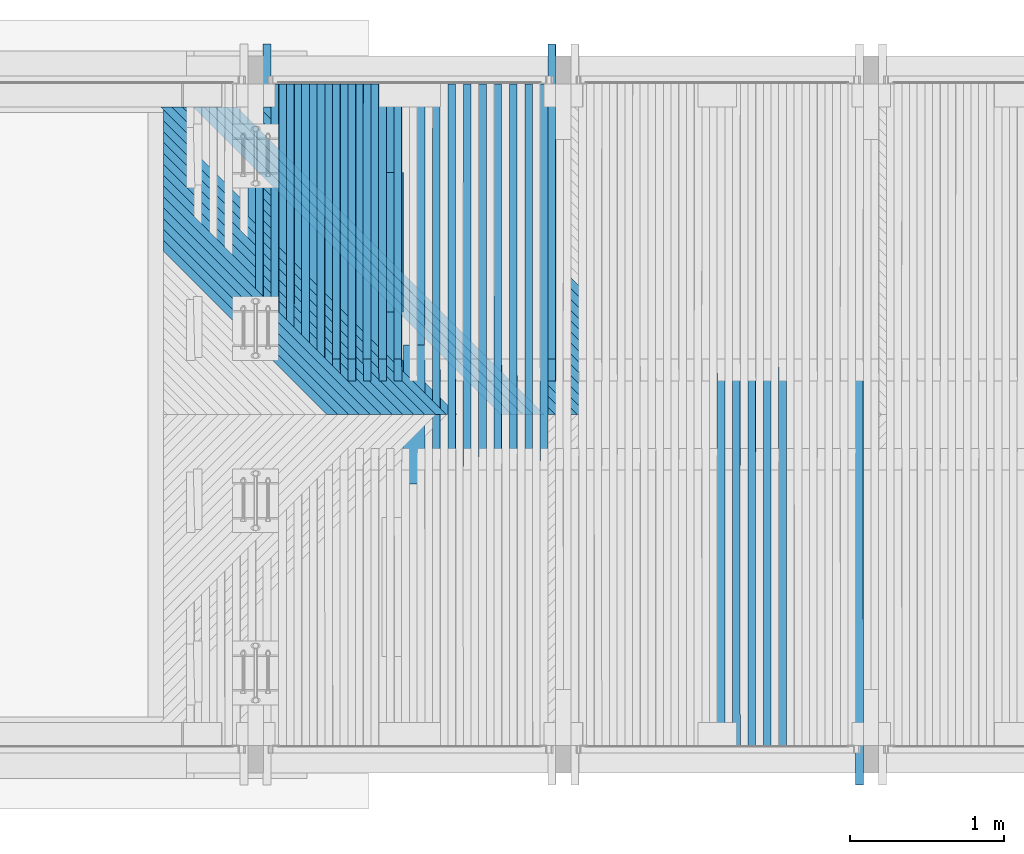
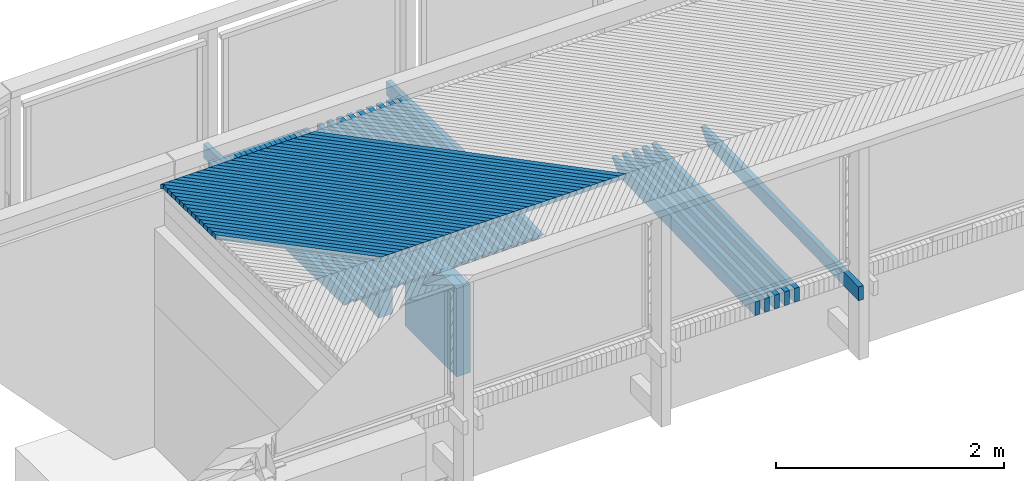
# One storey, part 19 of 65: 73 beams.
"""IFC2X3 building model written with IfcOpenShell, lengths in millimetres."""

from ifc_helpers import new_model, si_unit, frame, origin_with_axes, place, context, subcontext, project, spatial, faceted_brep, material, type_object, element, save


model = new_model("IFC2X3")

# Units and contexts
model_context = context("Model", 3, precision=1e-05, world=origin_with_axes())
body_context = subcontext(model_context, "Body", "Model", "MODEL_VIEW")
ifc_project = project(units=[si_unit("LENGTHUNIT", "METRE", prefix="MILLI"), si_unit("AREAUNIT", "SQUARE_METRE"), si_unit("VOLUMEUNIT", "CUBIC_METRE"), si_unit("MASSUNIT", "GRAM", prefix="KILO"), si_unit("TIMEUNIT", "SECOND"), si_unit("PLANEANGLEUNIT", "RADIAN"), si_unit("SOLIDANGLEUNIT", "STERADIAN"), si_unit("THERMODYNAMICTEMPERATUREUNIT", "DEGREE_CELSIUS"), si_unit("LUMINOUSINTENSITYUNIT", "LUMEN")], contexts=[model_context])

# Site, building, storey
site_placement = place(None, origin_with_axes())
site = spatial("IfcSite", under=ifc_project, at=site_placement, Name="Undefined", CompositionType="ELEMENT")
building_placement = place(site_placement, origin_with_axes())
building = spatial("IfcBuilding", under=site, at=building_placement, Name="Undefined", CompositionType="ELEMENT")
storey_placement = place(building_placement, origin_with_axes())
storey = spatial("IfcBuildingStorey", under=building, at=storey_placement, Name="Undefined", CompositionType="ELEMENT", Elevation=0.0)

# Beams
ifc_material = material(Name="TIMBER/Timber_Undefined")
beam_type_1 = type_object("IfcBeamType", Name="945*140", PredefinedType="NOTDEFINED")
for number, where, z_axis, x_axis in (
    (1, (1031.0, 22817.5, 2502.1379002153), (0.0, 0.0, 1.0), (0.0, -1.0, 0.0)),
    (2, (891.0, 23937.5, 2500.3779002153), (0.0, 0.0, 1.0), (0.0, -1.0, 0.0)),
):
    element("IfcBeam", number, at=place(storey_placement, frame(where, z_axis=z_axis, x_axis=x_axis)), inside=storey, type_object=beam_type_1, material=ifc_material, Name="PALKKI", ObjectType="945*140", context=body_context, shape_type="Brep", body=[
        faceted_brep([(0.0, 70.0, -472.5), (0.0, 70.0, 472.5), (905.0, 70.0, 472.5), (905.0, 70.0, -472.5), (0.0, -70.0, 472.5), (905.0, -70.0, 472.5), (0.0, -70.0, -472.5), (905.0, -70.0, -472.5)], [[[0, 1, 2, 3]], [[1, 4, 5, 2]], [[4, 6, 7, 5]], [[6, 0, 3, 7]], [[5, 7, 3, 2]], [[6, 4, 1, 0]]]),
    ])
beam_type_2 = type_object("IfcBeamType", Name="50*50", PredefinedType="NOTDEFINED")
beam_1_placement = place(storey_placement, frame((497.783472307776, 22365.4998996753, 3189.38189593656), z_axis=(0.707219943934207, 0.70698194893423, -0.00405891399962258), x_axis=(-0.706849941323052, 0.706948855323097, -0.024217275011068)))
element("IfcBeam", 3, at=beam_1_placement, inside=storey, type_object=beam_type_2, material=ifc_material, Name="BEAM", ObjectType="50*50", context=body_context, shape_type="Brep", body=[
    faceted_brep([(25.0011701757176, -25.0000000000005, -24.9999999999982), (-25.0011704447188, -25.0, 24.9999999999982), (-26.4154158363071, 24.9999999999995, 24.9999999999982), (23.5869248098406, 24.9999999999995, -24.9999999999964), (1577.57341753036, 25.0, 25.0), (1527.54724488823, 25.0, -25.0), (1528.55536067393, -25.0, -24.9999999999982), (1578.58153331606, -24.9999999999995, 25.0000000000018)], [[[0, 1, 2, 3]], [[3, 2, 4, 5]], [[0, 3, 5, 6]], [[1, 0, 6, 7]], [[2, 1, 7, 4]], [[6, 5, 4, 7]]]),
])
beam_2_placement = place(storey_placement, frame((568.50226725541, 22365.4998996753, 3190.25895789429), z_axis=(0.707219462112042, 0.706981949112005, -0.0041419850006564), x_axis=(-0.706852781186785, 0.706948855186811, -0.0241342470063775)))
element("IfcBeam", 4, at=beam_2_placement, inside=storey, type_object=beam_type_2, material=ifc_material, Name="BEAM", ObjectType="50*50", context=body_context, shape_type="Brep", body=[
    faceted_brep([(25.0011701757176, -25.0000000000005, -24.9999999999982), (-25.0011704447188, -25.0, 24.9999999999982), (-26.4154158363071, 24.9999999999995, 24.9999999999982), (23.5869248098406, 24.9999999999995, -24.9999999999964), (1677.61863252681, 25.0, 24.9999999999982), (1627.59269495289, 25.0, -25.0), (1628.59250041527, -25.0, -24.9999999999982), (1678.61843798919, -24.9999999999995, 25.0)], [[[0, 1, 2, 3]], [[3, 2, 4, 5]], [[0, 3, 5, 6]], [[1, 0, 6, 7]], [[2, 1, 7, 4]], [[6, 5, 4, 7]]]),
])
beam_3_placement = place(storey_placement, frame((639.221164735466, 22365.4998996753, 3191.12771316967), z_axis=(0.707218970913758, 0.706981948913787, -0.00422505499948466), x_axis=(-0.70685561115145, 0.70694885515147, -0.0240512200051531)))
element("IfcBeam", 5, at=beam_3_placement, inside=storey, type_object=beam_type_2, material=ifc_material, Name="BEAM", ObjectType="50*50", context=body_context, shape_type="Brep", body=[
    faceted_brep([(25.0011701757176, -25.0000000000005, -24.9999999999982), (-25.0011704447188, -25.0, 24.9999999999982), (-26.4154158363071, 24.9999999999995, 24.9999999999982), (23.5869248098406, 24.9999999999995, -24.9999999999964), (1777.66321320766, 24.9999999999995, 25.0), (1727.63751066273, 25.0, -24.9999999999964), (1728.62900598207, -25.0000000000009, -24.9999999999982), (1778.65470852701, -25.0, 25.0000000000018)], [[[0, 1, 2, 3]], [[3, 2, 4, 5]], [[0, 3, 5, 6]], [[1, 0, 6, 7]], [[2, 1, 7, 4]], [[6, 5, 4, 7]]]),
])
beam_4_placement = place(storey_placement, frame((709.940163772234, 22365.4998996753, 3191.98816175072), z_axis=(0.707218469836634, 0.706981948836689, -0.00430812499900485), x_axis=(-0.706858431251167, 0.7069488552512, -0.0239681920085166)))
element("IfcBeam", 6, at=beam_4_placement, inside=storey, type_object=beam_type_2, material=ifc_material, Name="BEAM", ObjectType="50*50", context=body_context, shape_type="Brep", body=[
    faceted_brep([(25.0011701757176, -25.0000000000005, -24.9999999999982), (-25.0011704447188, -25.0, 24.9999999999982), (-26.4154158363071, 24.9999999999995, 24.9999999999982), (23.5869248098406, 24.9999999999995, -24.9999999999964), (1877.70716236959, 25.0000000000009, 24.9999999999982), (1827.68169485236, 25.0000000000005, -25.0000000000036), (1828.66488005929, -24.9999999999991, -25.0000000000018), (1878.69034757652, -24.9999999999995, 24.9999999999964)], [[[0, 1, 2, 3]], [[3, 2, 4, 5]], [[0, 3, 5, 6]], [[1, 0, 6, 7]], [[2, 1, 7, 4]], [[6, 5, 4, 7]]]),
])
beam_5_placement = place(storey_placement, frame((780.659263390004, 22365.4998996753, 3192.8403036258), z_axis=(0.707217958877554, 0.706981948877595, -0.00439119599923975), x_axis=(-0.706861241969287, 0.706948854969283, -0.0238851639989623)))
element("IfcBeam", 7, at=beam_5_placement, inside=storey, type_object=beam_type_2, material=ifc_material, Name="BEAM", ObjectType="50*50", context=body_context, shape_type="Brep", body=[
    faceted_brep([(25.0011701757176, -25.0000000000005, -24.9999999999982), (-25.0011704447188, -25.0, 24.9999999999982), (-26.4154158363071, 24.9999999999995, 24.9999999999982), (23.5869248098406, 24.9999999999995, -24.9999999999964), (1977.75048147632, 25.0, 25.0), (1927.72524901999, 25.0, -25.0000000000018), (1928.70012414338, -25.0, -25.0000000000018), (1978.7253565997, -25.0, 25.0)], [[[0, 1, 2, 3]], [[3, 2, 4, 5]], [[0, 3, 5, 6]], [[1, 0, 6, 7]], [[2, 1, 7, 4]], [[6, 5, 4, 7]]]),
])
beam_6_placement = place(storey_placement, frame((851.378462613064, 22365.4998996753, 3193.68413878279), z_axis=(0.707217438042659, 0.706981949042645, -0.00447426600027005), x_axis=(-0.706864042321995, 0.706948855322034, -0.0238021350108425)))
element("IfcBeam", 8, at=beam_6_placement, inside=storey, type_object=beam_type_2, material=ifc_material, Name="BEAM", ObjectType="50*50", context=body_context, shape_type="Brep", body=[
    faceted_brep([(25.0011701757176, -25.0000000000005, -24.9999999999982), (-25.0011704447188, -25.0, 24.9999999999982), (-26.4154158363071, 24.9999999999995, 24.9999999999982), (23.5869248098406, 24.9999999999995, -24.9999999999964), (2077.79317600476, 25.0000000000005, 25.0), (2027.76817857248, 25.0, -24.9999999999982), (2028.73474369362, -25.0000000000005, -24.9999999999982), (2078.75974112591, -24.9999999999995, 25.0000000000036)], [[[0, 1, 2, 3]], [[3, 2, 4, 5]], [[0, 3, 5, 6]], [[1, 0, 6, 7]], [[2, 1, 7, 4]], [[6, 5, 4, 7]]]),
])
beam_7_placement = place(storey_placement, frame((922.097760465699, 22365.4998996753, 3194.51966721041), z_axis=(0.707216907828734, 0.706981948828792, -0.00455733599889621), x_axis=(-0.706866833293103, 0.706948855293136, -0.0237191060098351)))
element("IfcBeam", 9, at=beam_7_placement, inside=storey, type_object=beam_type_2, material=ifc_material, Name="BEAM", ObjectType="50*50", context=body_context, shape_type="Brep", body=[
    faceted_brep([(25.0011701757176, -25.0000000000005, -24.9999999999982), (-25.0011704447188, -25.0, 24.9999999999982), (-26.4154158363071, 24.9999999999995, 24.9999999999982), (23.5869248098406, 24.9999999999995, -24.9999999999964), (2177.83524597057, 25.0, 25.0000000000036), (2127.81048355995, 25.0000000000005, -25.0), (2128.76873875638, -25.0, -24.9999999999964), (2178.793501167, -25.0000000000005, 25.0)], [[[0, 1, 2, 3]], [[3, 2, 4, 5]], [[0, 3, 5, 6]], [[1, 0, 6, 7]], [[2, 1, 7, 4]], [[6, 5, 4, 7]]]),
])
beam_8_placement = place(storey_placement, frame((992.817155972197, 22365.4998996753, 3195.34688889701), z_axis=(0.707216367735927, 0.706981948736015, -0.00464040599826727), x_axis=(-0.706869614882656, 0.706948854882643, -0.0236360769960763)))
element("IfcBeam", 10, at=beam_8_placement, inside=storey, type_object=beam_type_2, material=ifc_material, Name="BEAM", ObjectType="50*50", context=body_context, shape_type="Brep", body=[
    faceted_brep([(25.0011701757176, -25.0000000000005, -24.9999999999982), (-25.0011704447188, -25.0, 24.9999999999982), (-26.4154158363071, 24.9999999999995, 24.9999999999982), (23.5869248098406, 24.9999999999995, -24.9999999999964), (2277.87669396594, 24.9999999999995, 25.0), (2227.85216660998, 25.0, -25.0), (2228.80211195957, -25.0, -25.0), (2278.82663931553, -25.0, 25.0)], [[[0, 1, 2, 3]], [[3, 2, 4, 5]], [[0, 3, 5, 6]], [[1, 0, 6, 7]], [[2, 1, 7, 4]], [[6, 5, 4, 7]]]),
])
beam_9_placement = place(storey_placement, frame((1063.53664815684, 22365.4998996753, 3196.16580383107), z_axis=(0.707215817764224, 0.706981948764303, -0.00472347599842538), x_axis=(-0.706872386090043, 0.706948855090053, -0.0235530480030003)))
element("IfcBeam", 11, at=beam_9_placement, inside=storey, type_object=beam_type_2, material=ifc_material, Name="BEAM", ObjectType="50*50", context=body_context, shape_type="Brep", body=[
    faceted_brep([(25.0011701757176, -25.0000000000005, -24.9999999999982), (-25.0011704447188, -25.0, 24.9999999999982), (-26.4154158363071, 24.9999999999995, 24.9999999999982), (23.5869248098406, 24.9999999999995, -24.9999999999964), (2377.91752596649, 25.0, 25.0), (2327.89323362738, 25.0000000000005, -25.0), (2328.83486921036, -24.9999999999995, -25.0), (2378.85916154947, -24.9999999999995, 25.0000000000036)], [[[0, 1, 2, 3]], [[3, 2, 4, 5]], [[0, 3, 5, 6]], [[1, 0, 6, 7]], [[2, 1, 7, 4]], [[6, 5, 4, 7]]]),
])
beam_10_placement = place(storey_placement, frame((1134.25623604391, 22365.4998996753, 3196.97641200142), z_axis=(0.707215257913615, 0.706981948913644, -0.00480654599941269), x_axis=(-0.70687514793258, 0.706948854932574, -0.0234700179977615)))
element("IfcBeam", 12, at=beam_10_placement, inside=storey, type_object=beam_type_2, material=ifc_material, Name="BEAM", ObjectType="50*50", context=body_context, shape_type="Brep", body=[
    faceted_brep([(25.0011701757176, -25.0000000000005, -24.9999999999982), (-25.0011704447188, -25.0, 24.9999999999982), (-26.4154158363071, 24.9999999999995, 24.9999999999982), (23.5869248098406, 24.9999999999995, -24.9999999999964), (2477.9577414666, 25.0, 24.9999999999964), (2427.93368417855, 25.0000000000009, -25.0), (2428.8670100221, -24.9999999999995, -25.0000000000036), (2478.89106731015, -24.9999999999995, 24.9999999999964)], [[[0, 1, 2, 3]], [[3, 2, 4, 5]], [[0, 3, 5, 6]], [[1, 0, 6, 7]], [[2, 1, 7, 4]], [[6, 5, 4, 7]]]),
])
beam_11_placement = place(storey_placement, frame((1204.9759186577, 22365.4998996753, 3197.77871339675), z_axis=(0.707214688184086, 0.706981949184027, -0.00488961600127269), x_axis=(-0.706877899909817, 0.706948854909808, -0.0233869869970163)))
element("IfcBeam", 13, at=beam_11_placement, inside=storey, type_object=beam_type_2, material=ifc_material, Name="BEAM", ObjectType="50*50", context=body_context, shape_type="Brep", body=[
    faceted_brep([(25.0011701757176, -25.0000000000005, -24.9999999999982), (-25.0011704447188, -25.0, 24.9999999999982), (-26.4154158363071, 24.9999999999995, 24.9999999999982), (23.5869248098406, 24.9999999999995, -24.9999999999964), (2577.99734489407, 25.0000000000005, 25.0), (2527.97352265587, 25.0, -25.0), (2528.89853878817, -24.9999999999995, -25.0), (2578.92236102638, -24.9999999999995, 25.0000000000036)], [[[0, 1, 2, 3]], [[3, 2, 4, 5]], [[0, 3, 5, 6]], [[1, 0, 6, 7]], [[2, 1, 7, 4]], [[6, 5, 4, 7]]]),
])
beam_12_placement = place(storey_placement, frame((1275.69569502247, 22365.4998996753, 3198.57270800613), z_axis=(0.707214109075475, 0.706981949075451, -0.00497268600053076), x_axis=(-0.706880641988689, 0.706948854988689, -0.0233039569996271)))
element("IfcBeam", 14, at=beam_12_placement, inside=storey, type_object=beam_type_2, material=ifc_material, Name="BEAM", ObjectType="50*50", context=body_context, shape_type="Brep", body=[
    faceted_brep([(25.0011701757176, -25.0000000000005, -24.9999999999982), (-25.0011704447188, -25.0, 24.9999999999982), (-26.4154158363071, 24.9999999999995, 24.9999999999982), (23.5869248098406, 24.9999999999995, -24.9999999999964), (2678.0363391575, 25.0000000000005, 24.9999999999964), (2628.01275193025, 25.0000000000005, -25.0), (2628.92945847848, -24.9999999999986, -24.9999999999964), (2678.95304570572, -24.9999999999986, 24.9999999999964)], [[[0, 1, 2, 3]], [[3, 2, 4, 5]], [[0, 3, 5, 6]], [[1, 0, 6, 7]], [[2, 1, 7, 4]], [[6, 5, 4, 7]]]),
])
beam_13_placement = place(storey_placement, frame((1346.41556416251, 22365.4998996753, 3199.3583958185), z_axis=(0.70721352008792, 0.706981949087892, -0.00505575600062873), x_axis=(-0.706883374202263, 0.706948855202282, -0.0232209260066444)))
element("IfcBeam", 15, at=beam_13_placement, inside=storey, type_object=beam_type_2, material=ifc_material, Name="BEAM", ObjectType="50*50", context=body_context, shape_type="Brep", body=[
    faceted_brep([(25.0011701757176, -25.0000000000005, -24.9999999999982), (-25.0011704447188, -25.0, 24.9999999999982), (-26.4154158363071, 24.9999999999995, 24.9999999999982), (23.5869248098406, 24.9999999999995, -24.9999999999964), (2778.07472698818, 25.0000000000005, 25.0), (2728.05137477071, 25.0000000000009, -25.0), (2728.95977176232, -25.0, -25.0), (2778.9831239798, -25.0, 25.0000000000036)], [[[0, 1, 2, 3]], [[3, 2, 4, 5]], [[0, 3, 5, 6]], [[1, 0, 6, 7]], [[2, 1, 7, 4]], [[6, 5, 4, 7]]]),
])
for number, where, z_axis, x_axis, name in (
    (16, (1417.1355251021, 22365.4998996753, 3200.13577682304), (0.70721292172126, 0.706981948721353, -0.00513882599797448), (-0.706886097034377, 0.706948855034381, -0.0231378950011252), "BEAM"),
    (17, (1487.85557686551, 22365.4998996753, 3200.90485100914), (0.707212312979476, 0.706981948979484, -0.00522189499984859), (-0.706888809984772, 0.70694885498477, -0.0230548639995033), "BEAM"),
    (18, (1558.57571847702, 22365.4998996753, 3201.66561836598), (0.707211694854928, 0.706981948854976, -0.00530496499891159), (-0.706891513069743, 0.706948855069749, -0.0229718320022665), "BEAM"),
    (19, (1629.2959489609, 22365.4998996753, 3202.41807888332), (0.707211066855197, 0.706981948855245, -0.00538803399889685), (-0.706894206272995, 0.706948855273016, -0.0228888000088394), "BEAM"),
    (20, (1700.01626734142, 22365.4998996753, 3203.16223255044), (0.707210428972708, 0.706981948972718, -0.00547110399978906), (-0.706896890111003, 0.706948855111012, -0.0228057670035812), "BEAM"),
    (21, (1770.73667264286, 22365.4998996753, 3203.89807935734), (0.70720978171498, 0.706981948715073, -0.00555417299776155), (-0.706899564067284, 0.706948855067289, -0.0227227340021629), "BEAM"),
    (22, (1841.45716388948, 22365.4998996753, 3204.62561929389), (0.707209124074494, 0.706981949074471, -0.00563724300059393), (-0.706902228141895, 0.706948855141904, -0.0226397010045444), "BEAM"),
    (23, (1912.17774010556, 22365.4998996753, 3205.34485234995), (0.707208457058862, 0.706981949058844, -0.00572031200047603), (-0.706904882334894, 0.706948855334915, -0.0225566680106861), "BEAM"),
    (24, (1982.89840031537, 22365.4998996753, 3206.05577851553), (0.707207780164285, 0.706981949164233, -0.0058033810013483), (-0.706907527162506, 0.706948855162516, -0.0224736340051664), "BEAM"),
    (25, (2053.61914354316, 22365.4998996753, 3206.75839778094), (0.707207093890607, 0.706981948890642, -0.00588644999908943), (-0.706910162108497, 0.706948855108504, -0.0223906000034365), "BEAM"),
    (26, (2124.3399688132, 22365.4998996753, 3207.45271013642), (0.707206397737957, 0.706981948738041, -0.00596951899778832), (-0.706912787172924, 0.706948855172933, -0.0223075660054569), "BEAM"),
    (27, (2195.06087514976, 22365.4998996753, 3208.13871557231), (0.70720569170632, 0.706981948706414, -0.00605258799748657), (-0.706915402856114, 0.706948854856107, -0.0222245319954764), "BEAM"),
    (28, (2265.78186157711, 22365.4998996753, 3208.8164140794), (0.707204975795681, 0.706981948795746, -0.00613565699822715), (-0.70691800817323, 0.706948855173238, -0.0221414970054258), "BEAM"),
    (29, (2336.5029271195, 22365.4998996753, 3209.48580564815), (0.707204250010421, 0.706981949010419, -0.00621872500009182), (-0.706920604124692, 0.706948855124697, -0.0220584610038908), "BEAM"),
    (30, (2407.22407080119, 22365.4998996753, 3210.14689026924), (0.707203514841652, 0.706981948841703, -0.00630179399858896), (-0.706923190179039, 0.706948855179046, -0.0219754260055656), "BEAM"),
    (31, (2477.94529164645, 22365.4998996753, 3210.79966793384), (0.707202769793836, 0.706981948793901, -0.0063848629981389), (-0.706925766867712, 0.706948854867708, -0.0218923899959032), "BEAM"),
    (32, (2902.27418251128, 22365.4998996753, 3214.5418873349), (0.707198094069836, 0.706981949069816, -0.00688327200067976), (-0.706941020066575, 0.706948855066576, -0.0213941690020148), "BEAM"),
    (33, (2831.55251917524, 22365.4998996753, 3213.93895159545), (0.70719889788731, 0.706981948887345, -0.00680020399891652), (-0.706938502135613, 0.706948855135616, -0.02147720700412), "BEAM"),
    (34, (2760.83092714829, 22365.4998996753, 3213.32770884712), (0.707199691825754, 0.706981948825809, -0.00671713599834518), (-0.706935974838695, 0.706948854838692, -0.0215602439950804), "BEAM"),
    (35, (2690.1094074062, 22365.4998996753, 3212.70815909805), (0.707200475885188, 0.706981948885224, -0.00663406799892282), (-0.70693343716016, 0.706948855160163, -0.0216432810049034), "BEAM"),
    (36, (2619.38796092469, 22365.4998996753, 3212.08030235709), (0.70720125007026, 0.706981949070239, -0.00655099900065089), (-0.706930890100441, 0.706948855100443, -0.0217263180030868), "BEAM"),
    (37, (2548.66658867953, 22365.4998996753, 3211.44413863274), (0.707202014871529, 0.70698194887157, -0.00646793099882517), (-0.706928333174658, 0.706948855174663, -0.0218093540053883), "BEAM"),
):
    element("IfcBeam", number, at=place(storey_placement, frame(where, z_axis=z_axis, x_axis=x_axis)), inside=storey, type_object=beam_type_2, material=ifc_material, Name=name, ObjectType="50*50", context=body_context, shape_type="Brep", body=[
        faceted_brep([(23.5869248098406, 24.9999999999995, -24.9999999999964), (-26.4154158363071, 24.9999999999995, 24.9999999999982), (2802.92643296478, 25.0, 25.0), (2852.92877373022, 25.0000000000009, -25.0), (-25.0011704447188, -25.0, 24.9999999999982), (2804.34067830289, -25.0, 25.0000000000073), (25.0011701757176, -25.0000000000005, -24.9999999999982), (2854.34301907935, -24.9999999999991, -25.0000000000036)], [[[0, 1, 2, 3]], [[1, 4, 5, 2]], [[4, 6, 7, 5]], [[6, 0, 3, 7]], [[5, 7, 3, 2]], [[6, 4, 1, 0]]]),
    ])
beam_type_3 = type_object("IfcBeamType", Name="150*50", PredefinedType="NOTDEFINED")
for number, where, z_axis, x_axis, name in (
    (38, (3425.91359286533, 20216.5046076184, 3075.76470610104), (-0.00759704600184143, -0.0199960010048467, 0.99977119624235), (-0.000151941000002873, 0.999800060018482, 0.0199954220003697), "BEAM"),
    (39, (3325.89651127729, 20216.5046076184, 3074.99638800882), (-0.00776316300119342, -0.0199960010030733, 0.999769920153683), (-0.000155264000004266, 0.999800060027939, 0.0199953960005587), "BEAM"),
    (40, (3225.87955873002, 20216.5046076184, 3074.21145155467), (-0.0079292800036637, -0.019996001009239, 0.99976861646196), (-0.000158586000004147, 0.999800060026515, 0.0199953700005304), "BEAM"),
    (41, (3125.86273798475, 20216.5046076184, 3073.40989676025), (-0.00809539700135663, -0.0199960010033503, 0.999767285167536), (-0.000161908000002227, 0.999800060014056, 0.0199953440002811), "BEAM"),
    (42, (3025.84605180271, 20216.5046076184, 3072.59172364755), (-0.00826151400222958, -0.0199960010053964, 0.999765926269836), (-0.000165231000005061, 0.999800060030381, 0.0199953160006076), "BEAM"),
):
    element("IfcBeam", number, at=place(storey_placement, frame(where, z_axis=z_axis, x_axis=x_axis)), inside=storey, type_object=beam_type_3, material=ifc_material, Name=name, ObjectType="150*50", context=body_context, shape_type="Brep", body=[
        faceted_brep([(-1.6778358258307e-07, -24.9999999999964, -74.9999999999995), (1.67790858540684e-07, -24.9999999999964, 75.0000000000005), (1.67790858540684e-07, 25.0000000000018, 74.9999999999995), (-1.6778358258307e-07, 25.0000000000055, -75.0), (2375.00494422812, 25.0000000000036, -75.0), (2375.00494447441, -24.9999999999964, -74.9999999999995), (2510.59248714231, -24.9999999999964, 60.5875430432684), (2150.42514405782, -24.9999999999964, 75.0000000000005), (2150.42515052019, 25.0000000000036, 74.9999999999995), (2510.59248715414, 25.0000000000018, 60.5875433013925)], [[[0, 1, 2, 3]], [[0, 3, 4, 5]], [[1, 0, 5, 6, 7]], [[2, 1, 7, 8]], [[4, 3, 2, 8, 9]], [[5, 4, 9, 6]], [[6, 9, 8, 7]]]),
    ])
beam_14_placement = place(storey_placement, frame((3925.4256352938, 19958.5561921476, 3074.19674870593), z_axis=(-0.0067664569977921, -0.0199960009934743, 0.999777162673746), x_axis=(-0.000135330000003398, 0.999800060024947, 0.019995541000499)))
element("IfcBeam", 43, at=beam_14_placement, inside=storey, type_object=beam_type_3, material=ifc_material, Name="BEAM", ObjectType="150*50", context=body_context, shape_type="Brep", body=[
    faceted_brep([(-1.6778358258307e-07, -24.9999999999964, -74.9999999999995), (1.67790858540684e-07, -24.9999999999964, 75.0000000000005), (1.67790858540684e-07, 25.0000000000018, 74.9999999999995), (-1.6778358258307e-07, 25.0000000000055, -75.0), (2633.00494750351, 24.9999999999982, -74.9999999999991), (2633.00494763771, -25.0000000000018, -74.9999999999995), (2768.59248713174, -25.0000000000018, 60.5875397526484), (2408.42506549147, -25.0000000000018, 75.0000000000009), (2408.42500056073, 25.0, 75.0), (2768.59248710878, 24.9999999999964, 60.587539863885)], [[[0, 1, 2, 3]], [[0, 3, 4, 5]], [[1, 0, 5, 6, 7]], [[2, 1, 7, 8]], [[4, 3, 2, 8, 9]], [[5, 4, 9, 6]], [[8, 7, 6, 9]]]),
])
beam_15_placement = place(storey_placement, frame((1925.61831897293, 24771.443807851, 3057.33524344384), z_axis=(-0.0100889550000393, 0.0199960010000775, 0.9997491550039), x_axis=(-0.000201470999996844, -0.999800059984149, 0.0199949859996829)))
element("IfcBeam", 44, at=beam_15_placement, inside=storey, type_object=beam_type_3, material=ifc_material, Name="BEAM", ObjectType="150*50", context=body_context, shape_type="Brep", body=[
    faceted_brep([(-1.6778358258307e-07, -24.9999999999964, -74.9999999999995), (1.67790858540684e-07, -24.9999999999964, 75.0000000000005), (1.67790858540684e-07, 25.0000000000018, 74.9999999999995), (-1.6778358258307e-07, 25.0000000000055, -75.0), (2186.42646676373, 24.9999999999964, -74.9999999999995), (2186.42645144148, -25.0000000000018, -75.0), (2047.96935255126, -25.0000000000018, 75.0000000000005), (2047.9693678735, 24.9999999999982, 75.0)], [[[0, 1, 2, 3]], [[0, 3, 4, 5]], [[1, 0, 5, 6]], [[2, 1, 6, 7]], [[3, 2, 7, 4]], [[4, 7, 6, 5]]]),
])
for number, where, z_axis, x_axis, name in (
    (45, (1875.65468843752, 24513.4953923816, 3061.99027343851), (-0.010254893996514, 0.0199960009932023, 0.999747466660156), (-0.000205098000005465, -0.999800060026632, 0.0199949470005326), "BEAM"),
    (46, (1775.63991694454, 24513.4953923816, 3060.964371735), (-0.0104210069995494, 0.0199960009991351, 0.999745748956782), (-0.000208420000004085, -0.999800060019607, 0.0199949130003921), "BEAM"),
    (47, (1675.6253172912, 24513.4953923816, 3059.92185205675), (-0.0105871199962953, 0.0199960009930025, 0.99974400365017), (-0.000211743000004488, -0.999800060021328, 0.0199948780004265), "BEAM"),
    (48, (1575.61089223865, 24513.4953923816, 3058.86271443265), (-0.0107532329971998, 0.0199960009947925, 0.999742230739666), (-0.00021506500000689, -0.999800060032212, 0.0199948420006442), "BEAM"),
    (49, (1475.59664454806, 24513.4953923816, 3057.78695889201), (-0.010919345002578, 0.0199960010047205, 0.999740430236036), (-0.000218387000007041, -0.999800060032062, 0.0199948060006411), "BEAM"),
    (50, (1375.58257698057, 24513.4953923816, 3056.69458546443), (-0.011085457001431, 0.019996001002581, 0.999738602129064), (-0.00022170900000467, -0.999800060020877, 0.0199947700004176), "BEAM"),
    (51, (1275.56869229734, 24513.4953923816, 3055.58559418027), (-0.0112515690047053, 0.0199960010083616, 0.999736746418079), (-0.000225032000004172, -0.999800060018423, 0.0199947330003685), "BEAM"),
    (52, (1175.55499325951, 24513.4953923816, 3054.45998506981), (-0.0114176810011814, 0.0199960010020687, 0.999734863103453), (-0.000228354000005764, -0.999800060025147, 0.0199946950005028), "BEAM"),
    (53, (1075.54148262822, 24513.4953923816, 3053.31775816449), (-0.0115837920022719, 0.0199960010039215, 0.999732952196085), (-0.000231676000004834, -0.999800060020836, 0.0199946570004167), "BEAM"),
    (54, (875.515037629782, 24513.4953923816, 3050.98345109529), (-0.0119160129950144, 0.0199960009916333, 0.999729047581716), (-0.000238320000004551, -0.99980006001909, 0.0199945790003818), "BEAM"),
    (55, (775.50210878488, 24513.4953923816, 3049.79137099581), (-0.0120821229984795, 0.019996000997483, 0.999727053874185), (-0.000241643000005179, -0.999800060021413, 0.0199945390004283), "BEAM"),
    (56, (675.489379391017, 24513.4953923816, 3048.58267323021), (-0.0122482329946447, 0.0199960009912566, 0.999725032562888), (-0.000244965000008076, -0.99980006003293, 0.0199944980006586), "BEAM"),
    (57, (575.476852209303, 24513.4953923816, 3047.35735783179), (-0.012414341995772, 0.0199960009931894, 0.99972298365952), (-0.000248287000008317, -0.999800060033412, 0.0199944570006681), "BEAM"),
    (58, (475.464530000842, 24513.4953923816, 3046.11542483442), (-0.0125804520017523, 0.0199960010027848, 0.999720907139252), (-0.000251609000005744, -0.999800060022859, 0.0199944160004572), "BEAM"),
    (59, (375.452415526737, 24513.4953923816, 3044.85687427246), (-0.0127465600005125, 0.0199960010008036, 0.9997188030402), (-0.000254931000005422, -0.999800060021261, 0.0199943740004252), "BEAM"),
    (60, (275.44051154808, 24513.4953923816, 3043.58170618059), (-0.0129126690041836, 0.0199960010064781, 0.999716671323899), (-0.000258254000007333, -0.99980006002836, 0.0199943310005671), "BEAM"),
    (61, (175.42882082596, 24513.4953923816, 3042.28992059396), (-0.0130787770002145, 0.0199960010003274, 0.999714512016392), (-0.000261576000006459, -0.999800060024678, 0.0199942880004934), "BEAM"),
):
    element("IfcBeam", number, at=place(storey_placement, frame(where, z_axis=z_axis, x_axis=x_axis)), inside=storey, type_object=beam_type_3, material=ifc_material, Name=name, ObjectType="150*50", context=body_context, shape_type="Brep", body=[
        faceted_brep([(-1.6778358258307e-07, -24.9999999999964, -74.9999999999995), (-1.6778358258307e-07, 25.0000000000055, -75.0), (2375.00494422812, 25.0000000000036, -75.0), (2375.00494447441, -24.9999999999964, -74.9999999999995), (1.67790858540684e-07, -24.9999999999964, 75.0000000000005), (1.67790858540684e-07, 25.0000000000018, 74.9999999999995), (2150.42515052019, 25.0000000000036, 74.9999999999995), (2510.59248715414, 25.0000000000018, 60.5875433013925), (2510.59248714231, -24.9999999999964, 60.5875430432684), (2150.42514405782, -24.9999999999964, 75.0000000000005)], [[[0, 1, 2, 3]], [[0, 4, 5, 1]], [[2, 1, 5, 6, 7]], [[3, 2, 7, 8]], [[4, 0, 3, 8, 9]], [[5, 4, 9, 6]], [[8, 7, 6, 9]]]),
    ])
for number, where, z_axis, x_axis, name in (
    (62, (925.531616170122, 24513.4953923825, 3051.5713008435), (-0.011749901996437, 0.019996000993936, 0.999731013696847), (-0.000234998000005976, -0.99980006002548, 0.0199946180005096), "BEAM"),
    (63, (825.518588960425, 24513.4953923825, 3050.38753125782), (-0.0119160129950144, 0.0199960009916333, 0.999729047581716), (-0.000238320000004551, -0.99980006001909, 0.0199945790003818), "BEAM"),
    (64, (725.505759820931, 24513.4953923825, 3049.18714398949), (-0.0120821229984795, 0.019996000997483, 0.999727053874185), (-0.000241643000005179, -0.999800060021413, 0.0199945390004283), "BEAM"),
    (65, (625.493131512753, 24513.4953923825, 3047.97013907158), (-0.0122482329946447, 0.0199960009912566, 0.999725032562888), (-0.000244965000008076, -0.99980006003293, 0.0199944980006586), "BEAM"),
    (66, (525.480706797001, 24513.4953923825, 3046.73651653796), (-0.012414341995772, 0.0199960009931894, 0.99972298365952), (-0.000248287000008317, -0.999800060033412, 0.0199944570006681), "BEAM"),
    (67, (425.468488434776, 24513.4953923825, 3045.48627642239), (-0.0125804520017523, 0.0199960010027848, 0.999720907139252), (-0.000251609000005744, -0.999800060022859, 0.0199944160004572), "BEAM"),
    (68, (325.456479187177, 24513.4953923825, 3044.21941875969), (-0.0127465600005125, 0.0199960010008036, 0.9997188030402), (-0.000254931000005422, -0.999800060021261, 0.0199943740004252), "BEAM"),
    (69, (225.444681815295, 24513.4953923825, 3042.93594358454), (-0.0129126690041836, 0.0199960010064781, 0.999716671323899), (-0.000258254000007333, -0.99980006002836, 0.0199943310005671), "BEAM"),
    (70, (125.433099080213, 24513.4953923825, 3041.63585093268), (-0.0130787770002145, 0.0199960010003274, 0.999714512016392), (-0.000261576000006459, -0.999800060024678, 0.0199942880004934), "BEAM"),
):
    element("IfcBeam", number, at=place(storey_placement, frame(where, z_axis=z_axis, x_axis=x_axis)), inside=storey, type_object=beam_type_3, material=ifc_material, Name=name, ObjectType="150*50", context=body_context, shape_type="Brep", body=[
        faceted_brep([(-1.6778358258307e-07, -24.9999999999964, -74.9999999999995), (1.67790858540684e-07, -24.9999999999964, 75.0000000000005), (1.67790858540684e-07, 25.0000000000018, 74.9999999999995), (-1.6778358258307e-07, 25.0000000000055, -75.0), (1928.42646328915, 24.9999999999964, -75.0), (1928.42646353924, -25.0, -75.0000000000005), (1789.96936433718, -25.0000000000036, 74.9999999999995), (1789.96936408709, 24.9999999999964, 75.0)], [[[0, 1, 2, 3]], [[0, 3, 4, 5]], [[1, 0, 5, 6]], [[2, 1, 6, 7]], [[3, 2, 7, 4]], [[4, 7, 6, 5]]]),
    ])
beam_16_placement = place(storey_placement, frame((-24.5939098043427, 24513.4953923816, 3039.65649707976), z_axis=(-0.0134109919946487, 0.0199960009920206, 0.999710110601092), x_axis=(-0.00026822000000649, -0.999800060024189, 0.0199942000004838)))
element("IfcBeam", 71, at=beam_16_placement, inside=storey, type_object=beam_type_3, material=ifc_material, Name="BEAM", ObjectType="150*50", context=body_context, shape_type="Brep", body=[
    faceted_brep([(-1.6778358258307e-07, -24.9999999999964, -74.9999999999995), (-1.6778358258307e-07, 25.0000000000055, -75.0), (2375.00494422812, 25.0000000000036, -75.0), (2375.00494447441, -24.9999999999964, -74.9999999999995), (1.67790858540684e-07, -24.9999999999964, 75.0000000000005), (1.67790858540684e-07, 25.0000000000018, 74.9999999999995), (2150.42515052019, 25.0000000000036, 74.9999999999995), (2510.59248715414, 25.0000000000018, 60.5875433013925), (2510.59248714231, -24.9999999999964, 60.5875430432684), (2150.42514405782, -24.9999999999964, 75.0000000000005)], [[[0, 1, 2, 3]], [[0, 4, 5, 1]], [[2, 1, 5, 6, 7]], [[3, 2, 7, 8]], [[4, 0, 3, 8, 9]], [[5, 4, 9, 6]], [[8, 7, 6, 9]]]),
])
beam_17_placement = place(storey_placement, frame((75.4856898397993, 24771.443807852, 3035.82300259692), z_axis=(-0.0132448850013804, 0.0199960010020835, 0.99971232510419), x_axis=(-0.000264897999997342, -0.999800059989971, 0.0199942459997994)))
element("IfcBeam", 72, at=beam_17_placement, inside=storey, type_object=beam_type_3, material=ifc_material, Name="BEAM", ObjectType="150*50", context=body_context, shape_type="Brep", body=[
    faceted_brep([(-1.6778358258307e-07, -24.9999999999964, -74.9999999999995), (-1.6778358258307e-07, 25.0000000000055, -75.0), (2633.00494750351, 24.9999999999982, -74.9999999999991), (2633.00494763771, -25.0000000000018, -74.9999999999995), (1.67790858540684e-07, -24.9999999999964, 75.0000000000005), (1.67790858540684e-07, 25.0000000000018, 74.9999999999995), (2408.42506824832, 24.9999999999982, 75.0000000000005), (2768.59248710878, 24.9999999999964, 60.587539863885), (2768.59248713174, -25.0000000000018, 60.5875397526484), (2408.42506549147, -25.0000000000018, 75.0000000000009)], [[[0, 1, 2, 3]], [[0, 4, 5, 1]], [[2, 1, 5, 6, 7]], [[3, 2, 7, 8]], [[4, 0, 3, 8, 9]], [[5, 4, 9, 6]], [[8, 7, 6, 9]]]),
])
beam_18_placement = place(storey_placement, frame((25.4217337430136, 24513.4953923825, 3040.31914083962), z_axis=(-0.0132448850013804, 0.0199960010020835, 0.99971232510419), x_axis=(-0.000264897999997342, -0.999800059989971, 0.0199942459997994)))
element("IfcBeam", 73, at=beam_18_placement, inside=storey, type_object=beam_type_3, material=ifc_material, Name="BEAM", ObjectType="150*50", context=body_context, shape_type="Brep", body=[
    faceted_brep([(-1.6778358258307e-07, -24.9999999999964, -74.9999999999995), (1.67790858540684e-07, -24.9999999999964, 75.0000000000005), (1.67790858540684e-07, 25.0000000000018, 74.9999999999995), (-1.6778358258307e-07, 25.0000000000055, -75.0), (1928.42646328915, 24.9999999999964, -75.0), (1928.42646353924, -25.0, -75.0000000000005), (1789.96936433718, -25.0000000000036, 74.9999999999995), (1789.96936408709, 24.9999999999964, 75.0)], [[[0, 1, 2, 3]], [[0, 3, 4, 5]], [[1, 0, 5, 6]], [[2, 1, 6, 7]], [[3, 2, 7, 4]], [[4, 7, 6, 5]]]),
])

save(model, "model.ifc")
